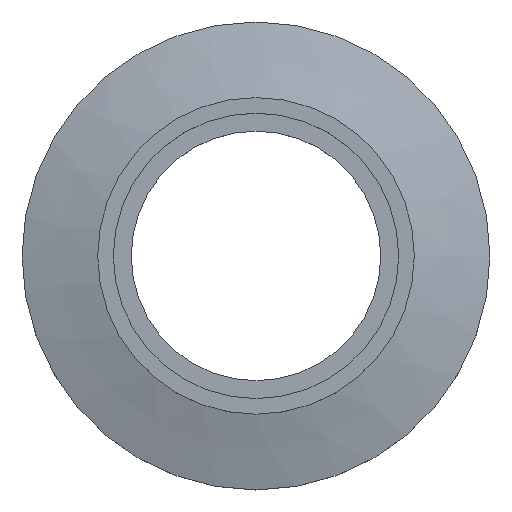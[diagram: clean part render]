
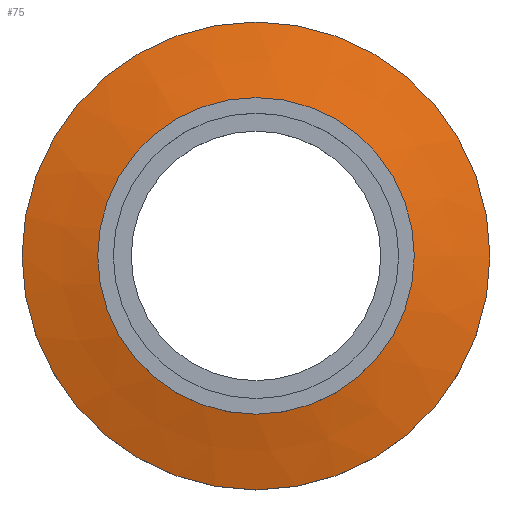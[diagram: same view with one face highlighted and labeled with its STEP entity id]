
A CAD part, top view. The second image highlights one B-rep face of the part: STEP entity #75.
In plain terms, the highlighted conical face has half-angle 75 degrees and reference radius 15 mm.
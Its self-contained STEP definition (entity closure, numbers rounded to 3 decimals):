
#75 = ADVANCED_FACE( '', ( #146, #147 ), #148, .T. );
#146 = FACE_OUTER_BOUND( '', #208, .T. );
#147 = FACE_BOUND( '', #209, .T. );
#148 = CONICAL_SURFACE( '', #210, 15., 1.309 );
#208 = EDGE_LOOP( '', ( #274 ) );
#209 = EDGE_LOOP( '', ( #275 ) );
#210 = AXIS2_PLACEMENT_3D( '', #276, #277, #278 );
#274 = ORIENTED_EDGE( '', *, *, #303, .T. );
#275 = ORIENTED_EDGE( '', *, *, #316, .F. );
#276 = CARTESIAN_POINT( '', ( 0., 0., 3. ) );
#277 = DIRECTION( '', ( 0., 0., -1. ) );
#278 = DIRECTION( '', ( -1., 0., 0. ) );
#303 = EDGE_CURVE( '', #330, #330, #331, .T. );
#316 = EDGE_CURVE( '', #350, #350, #351, .T. );
#330 = VERTEX_POINT( '', #366 );
#331 = CIRCLE( '', #367, 15. );
#350 = VERTEX_POINT( '', #386 );
#351 = CIRCLE( '', #387, 10.15 );
#366 = CARTESIAN_POINT( '', ( 15., 0., 3. ) );
#367 = AXIS2_PLACEMENT_3D( '', #403, #404, #405 );
#386 = CARTESIAN_POINT( '', ( 10.15, 0., 4.3 ) );
#387 = AXIS2_PLACEMENT_3D( '', #424, #425, #426 );
#403 = CARTESIAN_POINT( '', ( 0., 0., 3. ) );
#404 = DIRECTION( '', ( 0., 0., 1. ) );
#405 = DIRECTION( '', ( 1., 0., 0. ) );
#424 = CARTESIAN_POINT( '', ( 0., 0., 4.3 ) );
#425 = DIRECTION( '', ( 0., 0., 1. ) );
#426 = DIRECTION( '', ( 1., 0., 0. ) );
